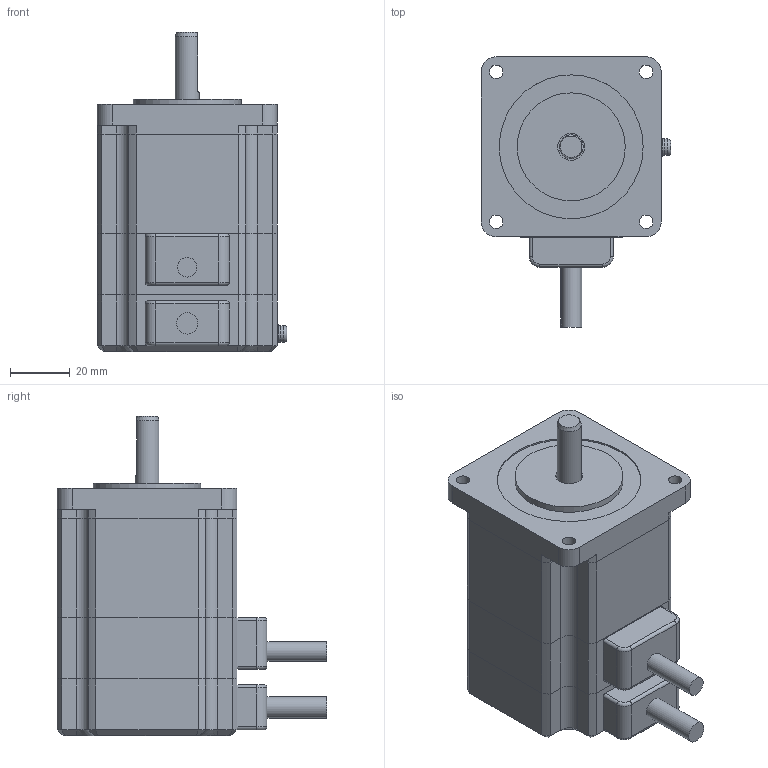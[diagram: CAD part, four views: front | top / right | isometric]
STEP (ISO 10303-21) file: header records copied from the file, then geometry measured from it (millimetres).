
FILE_DESCRIPTION (( 'STEP AP203' ), '1' );
FILE_NAME ('PMSA-B60D3E.STEP', '2022-04-13T23:53:40', ( '' ), ( '' ), 'SwSTEP 2.0', 'SolidWorks 2018', '' );
FILE_SCHEMA (( 'CONFIG_CONTROL_DESIGN' ));
Length unit declared in the file: millimetre
Products named in the file (1): PMSA-B60D3E
Bounding box: 63.2 x 90 x 106.6 mm (x, y, z)
Volume: 275843.9 mm3; surface area: 50511.2 mm2
Topology: 10 solids, 10 shells, 207 faces, 502 edges, 321 vertices
Faces by surface type: plane 100, cylinder 84, cone 14, torus 9
Full cylindrical faces by diameter (mm): 4.5 x4, 5.5 x2, 6 x1, 6.5 x1, 7.1 x1, 8 x1, 9 x2, 36 x1, 48 x1
Entity records: 6121 total; most frequent: CARTESIAN_POINT 1132, DIRECTION 1068, ORIENTED_EDGE 972, EDGE_CURVE 486, AXIS2_PLACEMENT_3D 396, VERTEX_POINT 320, LINE 276, VECTOR 276
